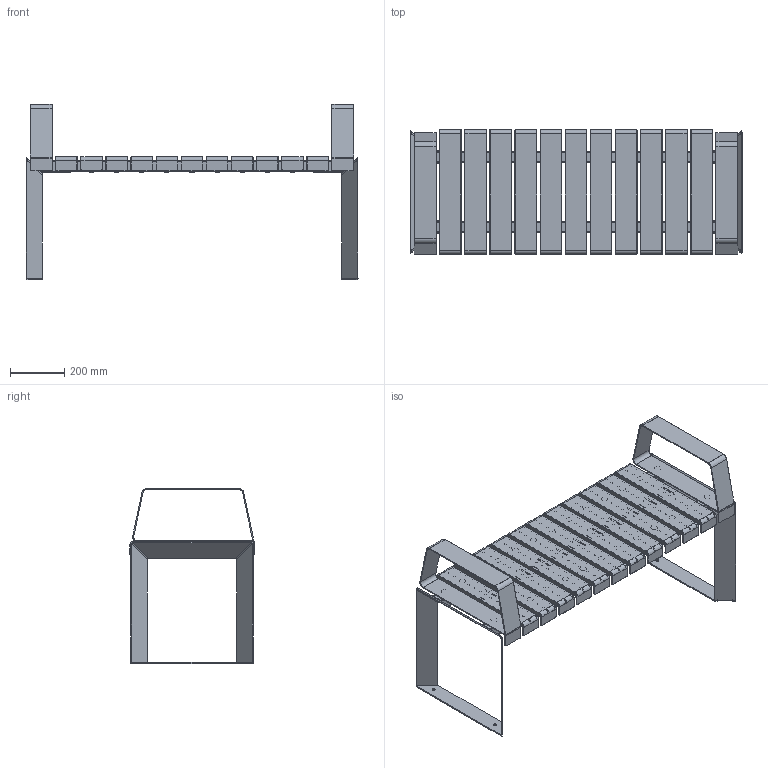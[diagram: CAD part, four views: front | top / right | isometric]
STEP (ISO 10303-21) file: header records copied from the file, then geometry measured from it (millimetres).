
FILE_DESCRIPTION(('STEP AP203'),'1');
FILE_NAME('UT80PL1301AXX + FIANCHI.stp','2025-11-11T12:58:04',(' '),(' '),'Spatial InterOp 3D',' ',' ');
FILE_SCHEMA(('CONFIG_CONTROL_DESIGN'));
Length unit declared in the file: millimetre
Products named in the file (1): UT80PL1301AXX + FIANCHI
Bounding box: 1229.16 x 460 x 648 mm (x, y, z)
Surface area: 2698339.7 mm2 (no closed solid volume)
Topology: 0 solids, 267 shells, 2582 faces, 10695 edges, 8246 vertices
Faces by surface type: plane 1053, cylinder 890, torus 418, bspline 164, cone 42, extrusion 15
Full cylindrical faces by diameter (mm): 6.8 x8, 10 x4, 13 x8, 17.8 x30, 25 x4
Entity records: 138059 total; most frequent: CARTESIAN_POINT 54296, DIRECTION 16352, ORIENTED_EDGE 15374, EDGE_CURVE 10535, VERTEX_POINT 8230, VECTOR 6356, LINE 6341, AXIS2_PLACEMENT_3D 4998
